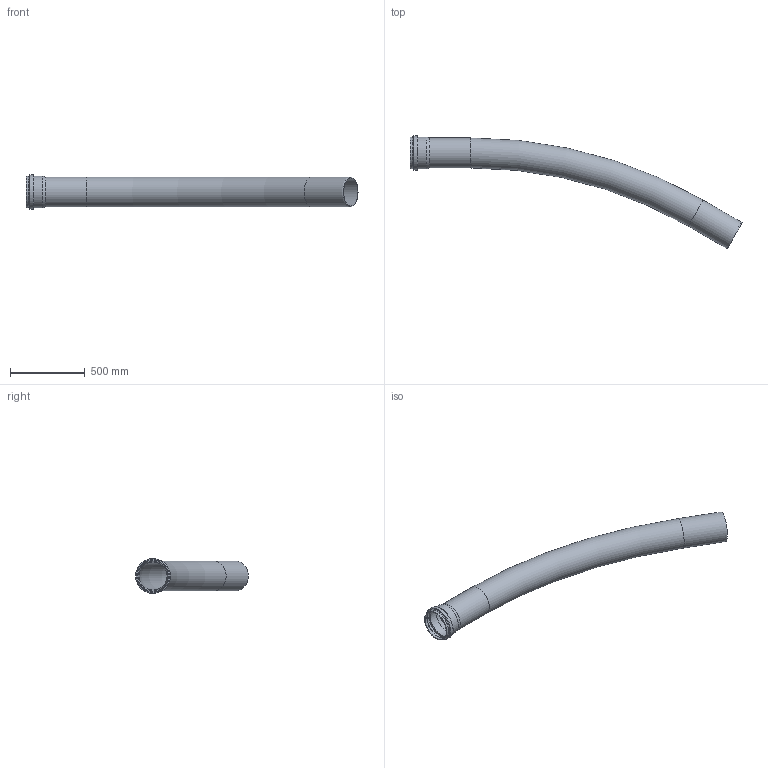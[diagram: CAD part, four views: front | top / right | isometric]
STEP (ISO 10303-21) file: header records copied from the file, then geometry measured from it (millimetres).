
FILE_DESCRIPTION(/* description */ (''),/* implementation_level */ '2;1');
FILE_NAME(/* name */ '734180z.stp',/* time_stamp */ '2026-05-08T11:19:58+02:00',/* author */ ('corinna'),/* organization */ (''),/* preprocessor_version */ 'ST-DEVELOPER v20',/* originating_system */ 'Autodesk Inventor 2024',/* authorisation */ '');
FILE_SCHEMA (('AUTOMOTIVE_DESIGN { 1 0 10303 214 3 1 1 }'));
Length unit declared in the file: millimetre
Products named in the file (1): 734180z
Bounding box: 2215.74 x 752.32 x 231.3 mm (x, y, z)
Volume: 8609426.4 mm3; surface area: 2813013.8 mm2
Topology: 1 solids, 1 shells, 42 faces, 108 edges, 71 vertices
Faces by surface type: torus 16, cylinder 11, cone 10, plane 5
Full cylindrical faces by diameter (mm): 187.6 x2, 200 x2, 200.8 x1, 201 x2, 210.4 x1, 212 x1, 221.9 x1, 231.3 x1
Entity records: 1382 total; most frequent: DIRECTION 281, CARTESIAN_POINT 222, ORIENTED_EDGE 216, AXIS2_PLACEMENT_3D 130, EDGE_CURVE 108, CIRCLE 87, VERTEX_POINT 71, EDGE_LOOP 47
